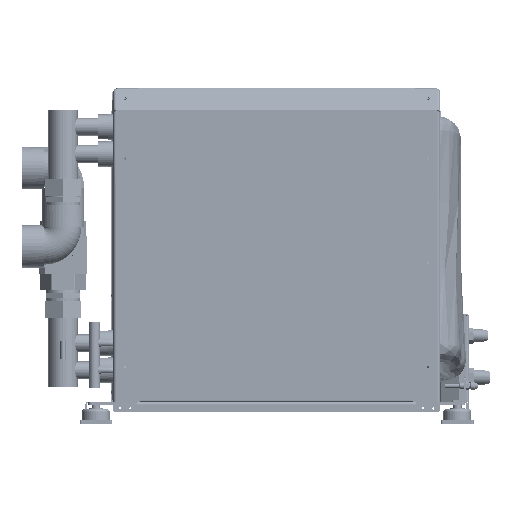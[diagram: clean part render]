
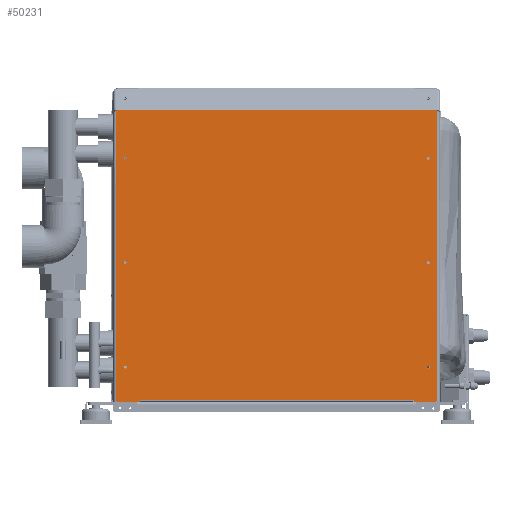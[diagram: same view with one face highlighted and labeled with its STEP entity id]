
A CAD part, front view. The second image highlights one B-rep face of the part: STEP entity #50231.
In plain terms, the highlighted planar face has unit normal (0, -1, 0) as drawn and (0, 0, 1) by its records, which use the part's own axes.
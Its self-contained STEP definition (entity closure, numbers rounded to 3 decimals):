
#2207=FACE_BOUND('',#7620,.T.);
#2208=FACE_BOUND('',#7621,.T.);
#2209=FACE_BOUND('',#7622,.T.);
#2210=FACE_BOUND('',#7623,.T.);
#2211=FACE_BOUND('',#7624,.T.);
#2212=FACE_BOUND('',#7625,.T.);
#2931=PLANE('',#54580);
#4531=FACE_OUTER_BOUND('',#7619,.T.);
#7619=EDGE_LOOP('',(#35654,#35655,#35656,#35657,#35658,#35659,#35660,#35661,
#35662,#35663,#35664,#35665,#35666,#35667));
#7620=EDGE_LOOP('',(#35668));
#7621=EDGE_LOOP('',(#35669));
#7622=EDGE_LOOP('',(#35670));
#7623=EDGE_LOOP('',(#35671));
#7624=EDGE_LOOP('',(#35672));
#7625=EDGE_LOOP('',(#35673));
#11408=LINE('',#74662,#15747);
#11411=LINE('',#74668,#15750);
#11412=LINE('',#74670,#15751);
#11413=LINE('',#74672,#15752);
#11414=LINE('',#74676,#15753);
#11415=LINE('',#74678,#15754);
#11416=LINE('',#74680,#15755);
#11417=LINE('',#74682,#15756);
#11418=LINE('',#74684,#15757);
#11419=LINE('',#74686,#15758);
#11420=LINE('',#74688,#15759);
#11421=LINE('',#74689,#15760);
#15747=VECTOR('',#60637,10.);
#15750=VECTOR('',#60642,10.);
#15751=VECTOR('',#60643,10.);
#15752=VECTOR('',#60644,10.);
#15753=VECTOR('',#60647,10.);
#15754=VECTOR('',#60648,10.);
#15755=VECTOR('',#60649,10.);
#15756=VECTOR('',#60650,10.);
#15757=VECTOR('',#60651,10.);
#15758=VECTOR('',#60652,10.);
#15759=VECTOR('',#60653,10.);
#15760=VECTOR('',#60654,10.);
#19755=CIRCLE('',#54577,3.);
#19757=CIRCLE('',#54581,3.);
#19758=CIRCLE('',#54582,2.25);
#19759=CIRCLE('',#54583,2.25);
#19760=CIRCLE('',#54584,2.25);
#19761=CIRCLE('',#54585,2.25);
#19762=CIRCLE('',#54586,2.25);
#19763=CIRCLE('',#54587,2.25);
#22223=VERTEX_POINT('',#74652);
#22224=VERTEX_POINT('',#74653);
#22227=VERTEX_POINT('',#74661);
#22229=VERTEX_POINT('',#74667);
#22230=VERTEX_POINT('',#74669);
#22231=VERTEX_POINT('',#74671);
#22232=VERTEX_POINT('',#74673);
#22233=VERTEX_POINT('',#74675);
#22234=VERTEX_POINT('',#74677);
#22235=VERTEX_POINT('',#74679);
#22236=VERTEX_POINT('',#74681);
#22237=VERTEX_POINT('',#74683);
#22238=VERTEX_POINT('',#74685);
#22239=VERTEX_POINT('',#74687);
#22240=VERTEX_POINT('',#74690);
#22241=VERTEX_POINT('',#74692);
#22242=VERTEX_POINT('',#74694);
#22243=VERTEX_POINT('',#74696);
#22244=VERTEX_POINT('',#74698);
#22245=VERTEX_POINT('',#74700);
#27302=EDGE_CURVE('',#22223,#22224,#19755,.T.);
#27306=EDGE_CURVE('',#22224,#22227,#11408,.T.);
#27309=EDGE_CURVE('',#22229,#22223,#11411,.T.);
#27310=EDGE_CURVE('',#22229,#22230,#11412,.T.);
#27311=EDGE_CURVE('',#22231,#22230,#11413,.T.);
#27312=EDGE_CURVE('',#22232,#22231,#19757,.T.);
#27313=EDGE_CURVE('',#22233,#22232,#11414,.T.);
#27314=EDGE_CURVE('',#22233,#22234,#11415,.T.);
#27315=EDGE_CURVE('',#22234,#22235,#11416,.T.);
#27316=EDGE_CURVE('',#22235,#22236,#11417,.T.);
#27317=EDGE_CURVE('',#22236,#22237,#11418,.T.);
#27318=EDGE_CURVE('',#22237,#22238,#11419,.T.);
#27319=EDGE_CURVE('',#22238,#22239,#11420,.T.);
#27320=EDGE_CURVE('',#22239,#22227,#11421,.T.);
#27321=EDGE_CURVE('',#22240,#22240,#19758,.T.);
#27322=EDGE_CURVE('',#22241,#22241,#19759,.T.);
#27323=EDGE_CURVE('',#22242,#22242,#19760,.T.);
#27324=EDGE_CURVE('',#22243,#22243,#19761,.T.);
#27325=EDGE_CURVE('',#22244,#22244,#19762,.T.);
#27326=EDGE_CURVE('',#22245,#22245,#19763,.T.);
#35654=ORIENTED_EDGE('',*,*,#27302,.F.);
#35655=ORIENTED_EDGE('',*,*,#27309,.F.);
#35656=ORIENTED_EDGE('',*,*,#27310,.T.);
#35657=ORIENTED_EDGE('',*,*,#27311,.F.);
#35658=ORIENTED_EDGE('',*,*,#27312,.F.);
#35659=ORIENTED_EDGE('',*,*,#27313,.F.);
#35660=ORIENTED_EDGE('',*,*,#27314,.T.);
#35661=ORIENTED_EDGE('',*,*,#27315,.T.);
#35662=ORIENTED_EDGE('',*,*,#27316,.T.);
#35663=ORIENTED_EDGE('',*,*,#27317,.T.);
#35664=ORIENTED_EDGE('',*,*,#27318,.T.);
#35665=ORIENTED_EDGE('',*,*,#27319,.T.);
#35666=ORIENTED_EDGE('',*,*,#27320,.T.);
#35667=ORIENTED_EDGE('',*,*,#27306,.F.);
#35668=ORIENTED_EDGE('',*,*,#27321,.T.);
#35669=ORIENTED_EDGE('',*,*,#27322,.T.);
#35670=ORIENTED_EDGE('',*,*,#27323,.T.);
#35671=ORIENTED_EDGE('',*,*,#27324,.T.);
#35672=ORIENTED_EDGE('',*,*,#27325,.T.);
#35673=ORIENTED_EDGE('',*,*,#27326,.T.);
#50231=ADVANCED_FACE('',(#4531,#2207,#2208,#2209,#2210,#2211,#2212),#2931,
 .T.);
#54577=AXIS2_PLACEMENT_3D('',#74654,#60629,#60630);
#54580=AXIS2_PLACEMENT_3D('',#74666,#60640,#60641);
#54581=AXIS2_PLACEMENT_3D('',#74674,#60645,#60646);
#54582=AXIS2_PLACEMENT_3D('',#74691,#60655,#60656);
#54583=AXIS2_PLACEMENT_3D('',#74693,#60657,#60658);
#54584=AXIS2_PLACEMENT_3D('',#74695,#60659,#60660);
#54585=AXIS2_PLACEMENT_3D('',#74697,#60661,#60662);
#54586=AXIS2_PLACEMENT_3D('',#74699,#60663,#60664);
#54587=AXIS2_PLACEMENT_3D('',#74701,#60665,#60666);
#60629=DIRECTION('center_axis',(0.,0.,
-1.));
#60630=DIRECTION('ref_axis',(0.707,-0.707,0.));
#60637=DIRECTION('',(-1.,0.,0.));
#60640=DIRECTION('center_axis',(0.,0.,
1.));
#60641=DIRECTION('ref_axis',(1.,0.,0.));
#60642=DIRECTION('',(0.,-1.,0.));
#60643=DIRECTION('',(-1.,0.,0.));
#60644=DIRECTION('',(0.,1.,0.));
#60645=DIRECTION('center_axis',(0.,0.,
-1.));
#60646=DIRECTION('ref_axis',(-0.707,-0.707,0.));
#60647=DIRECTION('',(-1.,0.,0.));
#60648=DIRECTION('',(0.,1.,0.));
#60649=DIRECTION('',(1.,0.,0.));
#60650=DIRECTION('',(0.,-1.,0.));
#60651=DIRECTION('',(1.,0.,0.));
#60652=DIRECTION('',(0.,1.,0.));
#60653=DIRECTION('',(1.,0.,0.));
#60654=DIRECTION('',(0.,-1.,0.));
#60655=DIRECTION('center_axis',(0.,0.,
-1.));
#60656=DIRECTION('ref_axis',(1.,0.,0.));
#60657=DIRECTION('center_axis',(0.,0.,
-1.));
#60658=DIRECTION('ref_axis',(1.,0.,0.));
#60659=DIRECTION('center_axis',(0.,0.,
-1.));
#60660=DIRECTION('ref_axis',(1.,0.,0.));
#60661=DIRECTION('center_axis',(0.,0.,
-1.));
#60662=DIRECTION('ref_axis',(1.,0.,0.));
#60663=DIRECTION('center_axis',(0.,0.,
-1.));
#60664=DIRECTION('ref_axis',(1.,0.,0.));
#60665=DIRECTION('center_axis',(0.,0.,
-1.));
#60666=DIRECTION('ref_axis',(1.,0.,0.));
#74652=CARTESIAN_POINT('',(231.,-207.,1.));
#74653=CARTESIAN_POINT('',(228.,-210.,1.));
#74654=CARTESIAN_POINT('Origin',(228.,-207.,1.));
#74661=CARTESIAN_POINT('',(197.,-210.,1.));
#74662=CARTESIAN_POINT('',(-231.,-210.,1.));
#74666=CARTESIAN_POINT('Origin',(0.,0.,
1.));
#74667=CARTESIAN_POINT('',(231.,209.172,1.));
#74668=CARTESIAN_POINT('',(231.,-210.,1.));
#74669=CARTESIAN_POINT('',(-231.,209.172,1.));
#74670=CARTESIAN_POINT('',(115.5,209.172,1.));
#74671=CARTESIAN_POINT('',(-231.,-207.,1.));
#74672=CARTESIAN_POINT('',(-231.,210.,1.));
#74673=CARTESIAN_POINT('',(-228.,-210.,1.));
#74674=CARTESIAN_POINT('Origin',(-228.,-207.,1.));
#74675=CARTESIAN_POINT('',(-197.,-210.,1.));
#74676=CARTESIAN_POINT('',(-231.,-210.,1.));
#74677=CARTESIAN_POINT('',(-197.,-207.5,1.));
#74678=CARTESIAN_POINT('',(-197.,-105.,1.));
#74679=CARTESIAN_POINT('',(-196.,-207.5,1.));
#74680=CARTESIAN_POINT('',(-98.5,-207.5,1.));
#74681=CARTESIAN_POINT('',(-196.,-208.,1.));
#74682=CARTESIAN_POINT('',(-196.,-103.75,1.));
#74683=CARTESIAN_POINT('',(196.,-208.,1.));
#74684=CARTESIAN_POINT('',(-98.,-208.,1.));
#74685=CARTESIAN_POINT('',(196.,-207.5,1.));
#74686=CARTESIAN_POINT('',(196.,-105.,1.));
#74687=CARTESIAN_POINT('',(197.,-207.5,1.));
#74688=CARTESIAN_POINT('',(98.,-207.5,1.));
#74689=CARTESIAN_POINT('',(197.,-103.75,1.));
#74690=CARTESIAN_POINT('',(-220.25,-160.,1.));
#74691=CARTESIAN_POINT('Origin',(-218.,-160.,1.));
#74692=CARTESIAN_POINT('',(-220.25,-10.,1.));
#74693=CARTESIAN_POINT('Origin',(-218.,-10.,1.));
#74694=CARTESIAN_POINT('',(-220.25,140.,1.));
#74695=CARTESIAN_POINT('Origin',(-218.,140.,1.));
#74696=CARTESIAN_POINT('',(215.75,140.,1.));
#74697=CARTESIAN_POINT('Origin',(218.,140.,1.));
#74698=CARTESIAN_POINT('',(215.75,-10.,1.));
#74699=CARTESIAN_POINT('Origin',(218.,-10.,1.));
#74700=CARTESIAN_POINT('',(215.75,-160.,1.));
#74701=CARTESIAN_POINT('Origin',(218.,-160.,1.));
